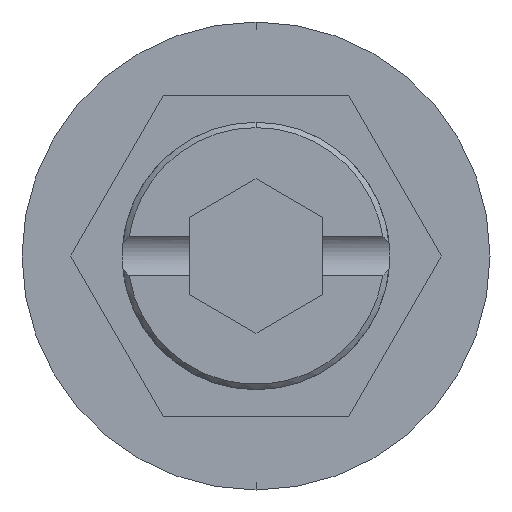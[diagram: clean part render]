
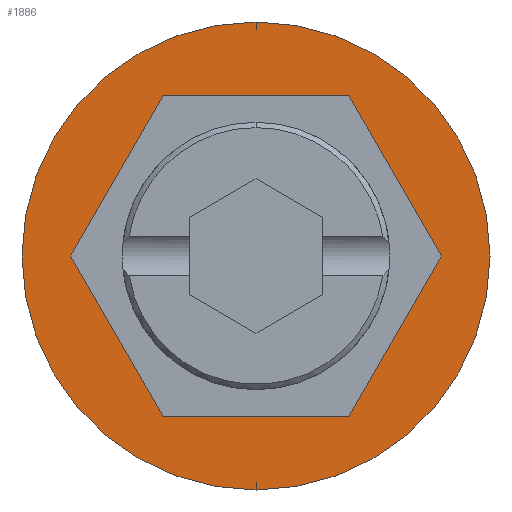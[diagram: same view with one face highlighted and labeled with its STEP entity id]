
A CAD part, front view. The second image highlights one B-rep face of the part: STEP entity #1886.
In plain terms, the highlighted planar face has unit normal (0, -1, 0).
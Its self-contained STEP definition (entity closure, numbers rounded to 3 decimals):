
#1 = FACE_OUTER_BOUND ( 'NONE', #335, .T. ) ;
#11 = VERTEX_POINT ( 'NONE', #1637 ) ;
#14 = CARTESIAN_POINT ( 'NONE',  ( -6.928, 0., 0. ) ) ;
#92 = PLANE ( 'NONE',  #566 ) ;
#140 = CARTESIAN_POINT ( 'NONE',  ( 0., 0., 0. ) ) ;
#162 = DIRECTION ( 'NONE',  ( 0.5, 0., 0.866 ) ) ;
#174 = CARTESIAN_POINT ( 'NONE',  ( 3.464, 0., -6. ) ) ;
#189 = VECTOR ( 'NONE', #408, 1000. ) ;
#190 = CARTESIAN_POINT ( 'NONE',  ( 0., 0., 0. ) ) ;
#240 = DIRECTION ( 'NONE',  ( -1., 0., 0. ) ) ;
#303 = VECTOR ( 'NONE', #162, 1000. ) ;
#324 = LINE ( 'NONE', #1793, #1101 ) ;
#335 = EDGE_LOOP ( 'NONE', ( #336, #1249 ) ) ;
#336 = ORIENTED_EDGE ( 'NONE', *, *, #1417, .T. ) ;
#355 = VERTEX_POINT ( 'NONE', #1840 ) ;
#373 = EDGE_CURVE ( 'NONE', #1295, #355, #1726, .T. ) ;
#386 = DIRECTION ( 'NONE',  ( 0., 0., -1. ) ) ;
#396 = CIRCLE ( 'NONE', #701, 8.75 ) ;
#408 = DIRECTION ( 'NONE',  ( 1., 0., 0. ) ) ;
#420 = CARTESIAN_POINT ( 'NONE',  ( 3.464, 0., -6. ) ) ;
#515 = DIRECTION ( 'NONE',  ( 0., 0., -1. ) ) ;
#528 = ORIENTED_EDGE ( 'NONE', *, *, #841, .F. ) ;
#537 = DIRECTION ( 'NONE',  ( 0., -1., 0. ) ) ;
#550 = VERTEX_POINT ( 'NONE', #1633 ) ;
#566 = AXIS2_PLACEMENT_3D ( 'NONE', #693, #1430, #1773 ) ;
#573 = DIRECTION ( 'NONE',  ( -0.5, 0., 0.866 ) ) ;
#612 = LINE ( 'NONE', #1069, #1414 ) ;
#624 = VERTEX_POINT ( 'NONE', #1335 ) ;
#674 = CARTESIAN_POINT ( 'NONE',  ( -3.464, 0., 6. ) ) ;
#693 = CARTESIAN_POINT ( 'NONE',  ( 0., 0., 0. ) ) ;
#701 = AXIS2_PLACEMENT_3D ( 'NONE', #140, #1929, #386 ) ;
#705 = CARTESIAN_POINT ( 'NONE',  ( 6.928, 0., 0. ) ) ;
#841 = EDGE_CURVE ( 'NONE', #954, #11, #324, .T. ) ;
#874 = DIRECTION ( 'NONE',  ( -0.5, 0., -0.866 ) ) ;
#933 = ORIENTED_EDGE ( 'NONE', *, *, #373, .F. ) ;
#936 = FACE_BOUND ( 'NONE', #1752, .T. ) ;
#954 = VERTEX_POINT ( 'NONE', #14 ) ;
#956 = LINE ( 'NONE', #2093, #189 ) ;
#1061 = ORIENTED_EDGE ( 'NONE', *, *, #1379, .F. ) ;
#1069 = CARTESIAN_POINT ( 'NONE',  ( 3.464, 0., 6. ) ) ;
#1083 = DIRECTION ( 'NONE',  ( 0.5, 0., -0.866 ) ) ;
#1101 = VECTOR ( 'NONE', #1083, 1000. ) ;
#1226 = VECTOR ( 'NONE', #874, 1000. ) ;
#1249 = ORIENTED_EDGE ( 'NONE', *, *, #1923, .T. ) ;
#1290 = VERTEX_POINT ( 'NONE', #1875 ) ;
#1295 = VERTEX_POINT ( 'NONE', #1818 ) ;
#1335 = CARTESIAN_POINT ( 'NONE',  ( 0., 0., 8.75 ) ) ;
#1337 = EDGE_CURVE ( 'NONE', #11, #1624, #956, .T. ) ;
#1379 = EDGE_CURVE ( 'NONE', #355, #1290, #612, .T. ) ;
#1403 = EDGE_CURVE ( 'NONE', #1624, #1295, #1474, .T. ) ;
#1414 = VECTOR ( 'NONE', #240, 1000. ) ;
#1417 = EDGE_CURVE ( 'NONE', #550, #624, #1992, .T. ) ;
#1430 = DIRECTION ( 'NONE',  ( 0., -1., 0. ) ) ;
#1466 = AXIS2_PLACEMENT_3D ( 'NONE', #190, #537, #515 ) ;
#1474 = LINE ( 'NONE', #174, #303 ) ;
#1562 = ORIENTED_EDGE ( 'NONE', *, *, #1403, .F. ) ;
#1611 = VECTOR ( 'NONE', #573, 1000. ) ;
#1624 = VERTEX_POINT ( 'NONE', #420 ) ;
#1633 = CARTESIAN_POINT ( 'NONE',  ( 0., 0., -8.75 ) ) ;
#1637 = CARTESIAN_POINT ( 'NONE',  ( -3.464, 0., -6. ) ) ;
#1682 = LINE ( 'NONE', #674, #1226 ) ;
#1726 = LINE ( 'NONE', #705, #1611 ) ;
#1752 = EDGE_LOOP ( 'NONE', ( #1868, #528, #1895, #1061, #933, #1562 ) ) ;
#1773 = DIRECTION ( 'NONE',  ( 0., 0., -1. ) ) ;
#1793 = CARTESIAN_POINT ( 'NONE',  ( -6.928, 0., 0. ) ) ;
#1818 = CARTESIAN_POINT ( 'NONE',  ( 6.928, 0., 0. ) ) ;
#1840 = CARTESIAN_POINT ( 'NONE',  ( 3.464, 0., 6. ) ) ;
#1868 = ORIENTED_EDGE ( 'NONE', *, *, #1337, .F. ) ;
#1875 = CARTESIAN_POINT ( 'NONE',  ( -3.464, 0., 6. ) ) ;
#1886 = ADVANCED_FACE ( 'NONE', ( #936, #1 ), #92, .T. ) ;
#1895 = ORIENTED_EDGE ( 'NONE', *, *, #1969, .F. ) ;
#1923 = EDGE_CURVE ( 'NONE', #624, #550, #396, .T. ) ;
#1929 = DIRECTION ( 'NONE',  ( 0., -1., 0. ) ) ;
#1969 = EDGE_CURVE ( 'NONE', #1290, #954, #1682, .T. ) ;
#1992 = CIRCLE ( 'NONE', #1466, 8.75 ) ;
#2093 = CARTESIAN_POINT ( 'NONE',  ( -3.464, 0., -6. ) ) ;
